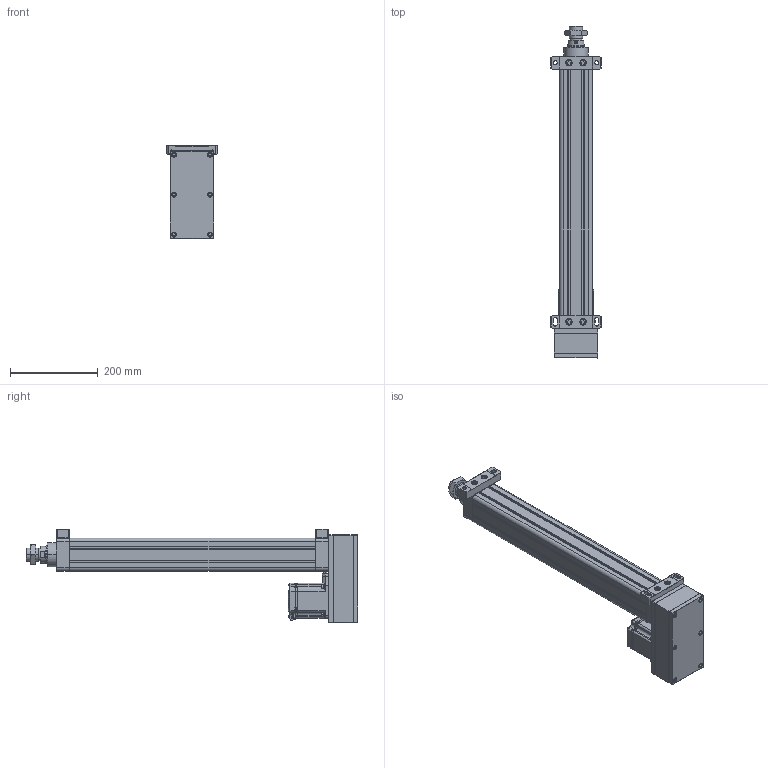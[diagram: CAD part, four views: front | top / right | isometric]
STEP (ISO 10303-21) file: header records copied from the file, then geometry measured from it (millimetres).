
FILE_DESCRIPTION((''),'2;1');
FILE_NAME('HE63-D-100-X1_ASM','2020-05-07T',('ASUS20200'),(''),'CREO PARAMETRIC BY PTC INC, 2014190','CREO PARAMETRIC BY PTC INC, 2014190','');
FILE_SCHEMA(('CONFIG_CONTROL_DESIGN'));
Length unit declared in the file: millimetre
Products named in the file (26): HE63-D-P-001-X1; HE63-D-P-002-X1; HE63-D-P-003-X1; LGLM-M8-22; SLM-01; YZ-M6X1; JDB405030; HE63-P-010-X1-80N; _MHMF082L1A2; MHMF082L1A2M2_1_ASM; JX6X6X25; HE63-P-012-X1; HE63-P-013-X1; M6X60; JM-M8; LM-M8-15; LM-M8X1-25; HE63-D-P-005-X1; HE63-D-P-004-X1; HE63-D-P-008-X1; TD-6; M6X25; HE63-P-015-X1; HE63-P-016-X1; M8X25; HE63-D-100-X1_ASM
Assembly tree (46 placements, depth 3):
  HE63-D-100-X1_ASM
    HE63-D-P-001-X1
    HE63-D-P-002-X1
    HE63-D-P-003-X1
    LGLM-M8-22  x8
    SLM-01
    YZ-M6X1
    JDB405030
    HE63-P-010-X1-80N
    MHMF082L1A2M2_1_ASM
      _MHMF082L1A2
    JX6X6X25
    HE63-P-012-X1
    HE63-P-013-X1
    M6X60  x6
    JM-M8
    LM-M8-15
    LM-M8X1-25
    HE63-D-P-005-X1
    HE63-D-P-004-X1
    HE63-D-P-008-X1
    TD-6  x4
    M6X25  x4
    HE63-P-015-X1
    HE63-P-016-X1
    M8X25  x4
Bounding box: 115 x 757 x 212.5 mm (x, y, z)
Volume: 2808721.4 mm3; surface area: 797991.6 mm2
Topology: 45 solids, 79 shells, 2407 faces, 5752 edges, 3548 vertices
Faces by surface type: plane 936, cylinder 725, cone 595, torus 118, sphere 30, bspline 3
Entity records: 57093 total; most frequent: CARTESIAN_POINT 10839, DIRECTION 10278, ORIENTED_EDGE 8972, EDGE_CURVE 4548, AXIS2_PLACEMENT_3D 3931, VERTEX_POINT 2817, VECTOR 2416, LINE 2416
